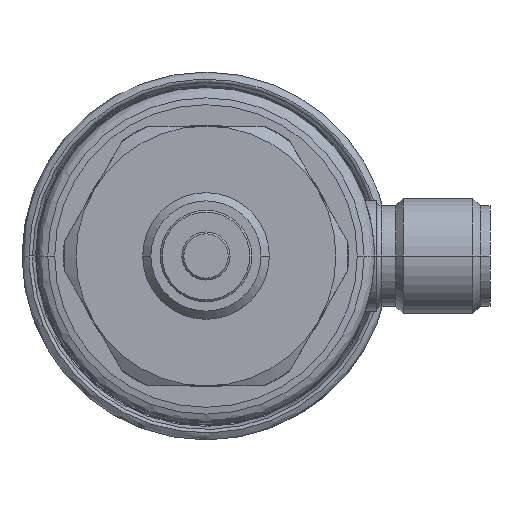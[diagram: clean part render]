
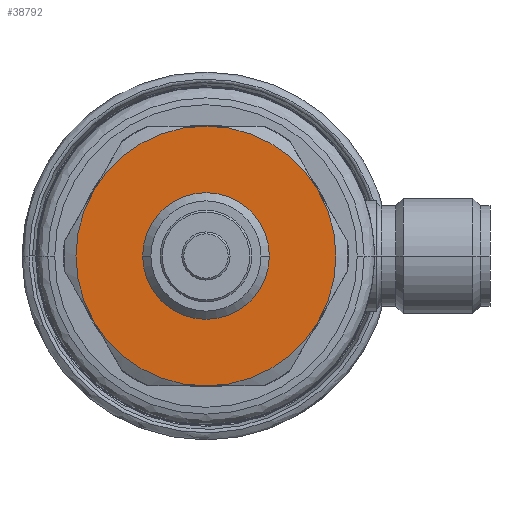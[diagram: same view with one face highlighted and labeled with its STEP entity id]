
A CAD part, front view. The second image highlights one B-rep face of the part: STEP entity #38792.
In plain terms, the highlighted free-form (B-spline) face has degree [1, 1] with [2, 2] control points.
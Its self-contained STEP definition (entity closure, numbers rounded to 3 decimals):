
#250=CARTESIAN_POINT('',(0.,0.,0.));
#251=DIRECTION('',(0.,-1.,0.));
#252=DIRECTION('',(0.866,0.,-0.5));
#253=AXIS2_PLACEMENT_3D('',#250,#251,#252);
#275=CARTESIAN_POINT('',(11.691,0.,
6.75));
#277=CARTESIAN_POINT('',(0.,0.,0.));
#278=DIRECTION('',(0.,-1.,0.));
#279=DIRECTION('',(0.,0.,-1.));
#280=AXIS2_PLACEMENT_3D('',#277,#278,#279);
#282=CARTESIAN_POINT('',(0.,0.,0.));
#283=DIRECTION('',(0.,-1.,0.));
#284=DIRECTION('',(-0.866,0.,-0.5));
#285=AXIS2_PLACEMENT_3D('',#282,#283,#284);
#287=CARTESIAN_POINT('',(0.,0.,0.));
#288=DIRECTION('',(0.,-1.,0.));
#289=DIRECTION('',(0.,0.,1.));
#290=AXIS2_PLACEMENT_3D('',#287,#288,#289);
#292=CARTESIAN_POINT('',(0.,0.,0.));
#293=DIRECTION('',(0.,-1.,0.));
#294=DIRECTION('',(0.866,0.,0.5));
#295=AXIS2_PLACEMENT_3D('',#292,#293,#294);
#297=CARTESIAN_POINT('',(0.,0.,0.));
#298=DIRECTION('',(0.,-1.,0.));
#299=DIRECTION('',(-1.,0.,0.));
#300=AXIS2_PLACEMENT_3D('',#297,#298,#299);
#302=CARTESIAN_POINT('',(0.,0.,0.));
#303=DIRECTION('',(0.,-1.,0.));
#304=DIRECTION('',(1.,0.,0.));
#305=AXIS2_PLACEMENT_3D('',#302,#303,#304);
#327=CARTESIAN_POINT('',(11.691,0.,
-6.75));
#499=CARTESIAN_POINT('',(0.,0.,-13.5));
#528=CARTESIAN_POINT('',(0.,0.,0.));
#529=DIRECTION('',(0.,-1.,0.));
#530=DIRECTION('',(-0.866,0.,0.5));
#531=AXIS2_PLACEMENT_3D('',#528,#529,#530);
#553=CARTESIAN_POINT('',(-11.691,0.,
-6.75));
#610=CARTESIAN_POINT('',(-11.691,0.,
6.75));
#741=CARTESIAN_POINT('',(0.,0.,13.5));
#33898=VERTEX_POINT('',#275);
#33900=VERTEX_POINT('',#741);
#33902=VERTEX_POINT('',#610);
#33904=VERTEX_POINT('',#327);
#33906=VERTEX_POINT('',#553);
#33908=VERTEX_POINT('',#499);
#33993=CARTESIAN_POINT('',(-5.75,0.,0.));
#33994=CARTESIAN_POINT('',(5.75,0.,0.));
#33995=VERTEX_POINT('',#33993);
#33996=VERTEX_POINT('',#33994);
#38768=CARTESIAN_POINT('',(14.04,0.,14.04));
#38769=CARTESIAN_POINT('',(14.04,0.,-14.04));
#38770=CARTESIAN_POINT('',(-14.04,0.,14.04));
#38771=CARTESIAN_POINT('',(-14.04,0.,-14.04));
#38772=B_SPLINE_SURFACE_WITH_KNOTS('',1,1,((#38768,#38769),(#38770,#38771)),
.UNSPECIFIED.,.F.,.F.,.F.,(2,2),(2,2),(-14.04,14.04),(
-14.04,14.04),.UNSPECIFIED.);
#38773=ORIENTED_EDGE('',*,*,#38762,.F.);
#38775=ORIENTED_EDGE('',*,*,#38774,.F.);
#38777=ORIENTED_EDGE('',*,*,#38776,.F.);
#38779=ORIENTED_EDGE('',*,*,#38778,.F.);
#38781=ORIENTED_EDGE('',*,*,#38780,.F.);
#38783=ORIENTED_EDGE('',*,*,#38782,.F.);
#38784=EDGE_LOOP('',(#38773,#38775,#38777,#38779,#38781,#38783));
#38785=FACE_OUTER_BOUND('',#38784,.F.);
#38787=ORIENTED_EDGE('',*,*,#38786,.T.);
#38789=ORIENTED_EDGE('',*,*,#38788,.T.);
#38790=EDGE_LOOP('',(#38787,#38789));
#38791=FACE_BOUND('',#38790,.F.);
#254=CIRCLE('',#253,13.5);
#281=CIRCLE('',#280,13.5);
#286=CIRCLE('',#285,13.5);
#291=CIRCLE('',#290,13.5);
#296=CIRCLE('',#295,13.5);
#301=CIRCLE('',#300,5.75);
#306=CIRCLE('',#305,5.75);
#532=CIRCLE('',#531,13.5);
#38762=EDGE_CURVE('',#33904,#33898,#254,.T.);
#38774=EDGE_CURVE('',#33908,#33904,#281,.T.);
#38776=EDGE_CURVE('',#33906,#33908,#286,.T.);
#38778=EDGE_CURVE('',#33902,#33906,#532,.T.);
#38780=EDGE_CURVE('',#33900,#33902,#291,.T.);
#38782=EDGE_CURVE('',#33898,#33900,#296,.T.);
#38786=EDGE_CURVE('',#33995,#33996,#301,.T.);
#38788=EDGE_CURVE('',#33996,#33995,#306,.T.);
#38792=ADVANCED_FACE('',(#38785,#38791),#38772,.T.);
